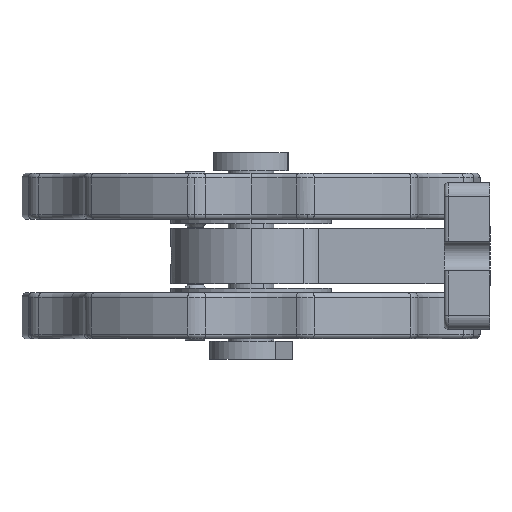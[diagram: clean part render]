
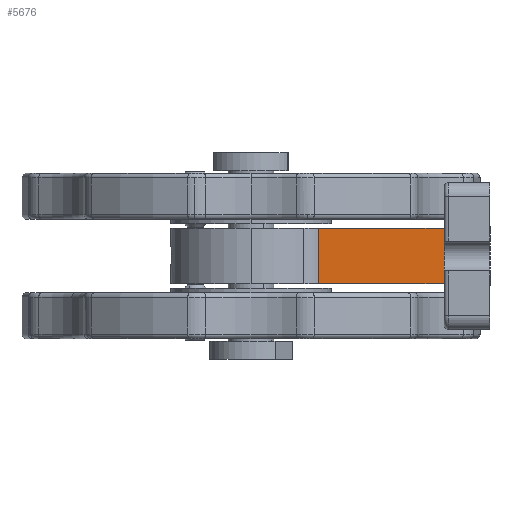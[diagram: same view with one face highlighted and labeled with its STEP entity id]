
A CAD part, left-side view. The second image highlights one B-rep face of the part: STEP entity #5676.
In plain terms, the highlighted planar face has unit normal (-1, 0, 0).
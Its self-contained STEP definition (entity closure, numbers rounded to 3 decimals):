
#753 = LINE ( 'NONE', #21971, #24100 ) ;
#1754 = VERTEX_POINT ( 'NONE', #5557 ) ;
#2078 = VERTEX_POINT ( 'NONE', #13855 ) ;
#2798 = LINE ( 'NONE', #23043, #27558 ) ;
#3238 = ORIENTED_EDGE ( 'NONE', *, *, #4752, .T. ) ;
#4752 = EDGE_CURVE ( 'NONE', #14102, #2078, #15755, .T. ) ;
#5084 = VECTOR ( 'NONE', #10551, 1000. ) ;
#5160 = ORIENTED_EDGE ( 'NONE', *, *, #5612, .F. ) ;
#5557 = CARTESIAN_POINT ( 'NONE',  ( -12., -42., -6. ) ) ;
#5612 = EDGE_CURVE ( 'NONE', #15240, #1754, #14631, .T. ) ;
#5676 = ADVANCED_FACE ( 'NONE', ( #6124 ), #28942, .F. ) ;
#6124 = FACE_OUTER_BOUND ( 'NONE', #17027, .T. ) ;
#7330 = CARTESIAN_POINT ( 'NONE',  ( -12., -42., 6. ) ) ;
#9491 = DIRECTION ( 'NONE',  ( 0., -1., 0. ) ) ;
#9931 = EDGE_CURVE ( 'NONE', #14102, #15240, #753, .T. ) ;
#10081 = CARTESIAN_POINT ( 'NONE',  ( -12., -14.739, 6. ) ) ;
#10551 = DIRECTION ( 'NONE',  ( 0., 0., -1. ) ) ;
#11077 = EDGE_CURVE ( 'NONE', #2078, #1754, #2798, .T. ) ;
#13733 = ORIENTED_EDGE ( 'NONE', *, *, #11077, .T. ) ;
#13855 = CARTESIAN_POINT ( 'NONE',  ( -12., -14.739, -6. ) ) ;
#14102 = VERTEX_POINT ( 'NONE', #10081 ) ;
#14529 = AXIS2_PLACEMENT_3D ( 'NONE', #28752, #15261, #17550 ) ;
#14631 = LINE ( 'NONE', #19629, #27672 ) ;
#15240 = VERTEX_POINT ( 'NONE', #7330 ) ;
#15261 = DIRECTION ( 'NONE',  ( 1., 0., 0. ) ) ;
#15755 = LINE ( 'NONE', #21921, #5084 ) ;
#17027 = EDGE_LOOP ( 'NONE', ( #29020, #3238, #13733, #5160 ) ) ;
#17550 = DIRECTION ( 'NONE',  ( 0., 1., 0. ) ) ;
#19512 = DIRECTION ( 'NONE',  ( 0., 0., -1. ) ) ;
#19629 = CARTESIAN_POINT ( 'NONE',  ( -12., -42., 6. ) ) ;
#21921 = CARTESIAN_POINT ( 'NONE',  ( -12., -14.739, -6. ) ) ;
#21971 = CARTESIAN_POINT ( 'NONE',  ( -12., -42., 6. ) ) ;
#23043 = CARTESIAN_POINT ( 'NONE',  ( -12., -42., -6. ) ) ;
#24100 = VECTOR ( 'NONE', #26589, 1000. ) ;
#26589 = DIRECTION ( 'NONE',  ( 0., -1., 0. ) ) ;
#27558 = VECTOR ( 'NONE', #9491, 1000. ) ;
#27672 = VECTOR ( 'NONE', #19512, 1000. ) ;
#28752 = CARTESIAN_POINT ( 'NONE',  ( -12., -42., 6. ) ) ;
#28942 = PLANE ( 'NONE',  #14529 ) ;
#29020 = ORIENTED_EDGE ( 'NONE', *, *, #9931, .F. ) ;
